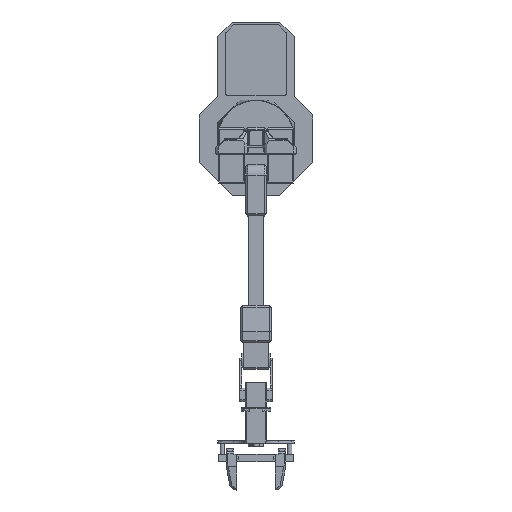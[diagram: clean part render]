
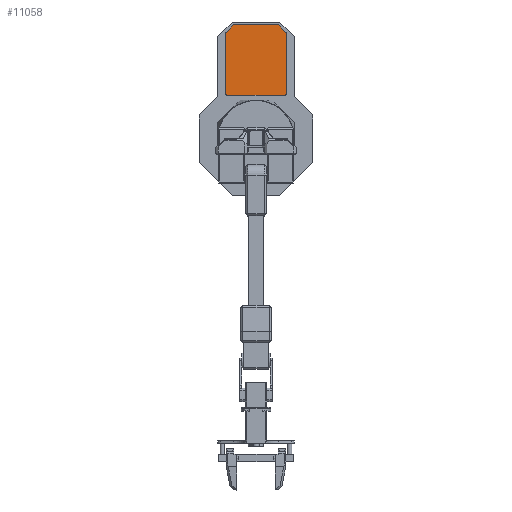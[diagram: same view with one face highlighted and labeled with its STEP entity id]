
A CAD part, top view. The second image highlights one B-rep face of the part: STEP entity #11058.
In plain terms, the highlighted planar face has unit normal (0, 0, 1).
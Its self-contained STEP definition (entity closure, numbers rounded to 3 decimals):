
#266=PLANE('',#11837);
#758=FACE_OUTER_BOUND('',#1432,.T.);
#1432=EDGE_LOOP('',(#7670,#7671,#7672,#7673,#7674,#7675,#7676,#7677,#7678,
#7679,#7680,#7681));
#2136=LINE('',#16088,#3397);
#2140=LINE('',#16100,#3401);
#2144=LINE('',#16112,#3405);
#2148=LINE('',#16124,#3409);
#2152=LINE('',#16136,#3413);
#2155=LINE('',#16145,#3416);
#3397=VECTOR('',#12827,10.);
#3401=VECTOR('',#12839,10.);
#3405=VECTOR('',#12851,10.);
#3409=VECTOR('',#12863,10.);
#3413=VECTOR('',#12875,10.);
#3416=VECTOR('',#12886,10.);
#4655=CIRCLE('',#11815,3.);
#4657=CIRCLE('',#11819,3.);
#4659=CIRCLE('',#11823,3.);
#4661=CIRCLE('',#11827,3.);
#4663=CIRCLE('',#11831,2.5);
#4665=CIRCLE('',#11835,2.5);
#4956=VERTEX_POINT('',#16078);
#4957=VERTEX_POINT('',#16080);
#4959=VERTEX_POINT('',#16086);
#4961=VERTEX_POINT('',#16092);
#4963=VERTEX_POINT('',#16098);
#4965=VERTEX_POINT('',#16104);
#4967=VERTEX_POINT('',#16110);
#4969=VERTEX_POINT('',#16116);
#4971=VERTEX_POINT('',#16122);
#4973=VERTEX_POINT('',#16128);
#4975=VERTEX_POINT('',#16134);
#4977=VERTEX_POINT('',#16140);
#5978=EDGE_CURVE('',#4957,#4956,#4655,.T.);
#5982=EDGE_CURVE('',#4956,#4959,#2136,.T.);
#5985=EDGE_CURVE('',#4959,#4961,#4657,.T.);
#5988=EDGE_CURVE('',#4961,#4963,#2140,.T.);
#5991=EDGE_CURVE('',#4963,#4965,#4659,.T.);
#5994=EDGE_CURVE('',#4965,#4967,#2144,.T.);
#5997=EDGE_CURVE('',#4967,#4969,#4661,.T.);
#6000=EDGE_CURVE('',#4969,#4971,#2148,.T.);
#6003=EDGE_CURVE('',#4971,#4973,#4663,.T.);
#6006=EDGE_CURVE('',#4973,#4975,#2152,.T.);
#6009=EDGE_CURVE('',#4975,#4977,#4665,.T.);
#6011=EDGE_CURVE('',#4977,#4957,#2155,.T.);
#7670=ORIENTED_EDGE('',*,*,#5991,.T.);
#7671=ORIENTED_EDGE('',*,*,#5994,.T.);
#7672=ORIENTED_EDGE('',*,*,#5997,.T.);
#7673=ORIENTED_EDGE('',*,*,#6000,.T.);
#7674=ORIENTED_EDGE('',*,*,#6003,.T.);
#7675=ORIENTED_EDGE('',*,*,#6006,.T.);
#7676=ORIENTED_EDGE('',*,*,#6009,.T.);
#7677=ORIENTED_EDGE('',*,*,#6011,.T.);
#7678=ORIENTED_EDGE('',*,*,#5978,.T.);
#7679=ORIENTED_EDGE('',*,*,#5982,.T.);
#7680=ORIENTED_EDGE('',*,*,#5985,.T.);
#7681=ORIENTED_EDGE('',*,*,#5988,.T.);
#11058=ADVANCED_FACE('',(#758),#266,.T.);
#11815=AXIS2_PLACEMENT_3D('',#16081,#12820,#12821);
#11819=AXIS2_PLACEMENT_3D('',#16094,#12833,#12834);
#11823=AXIS2_PLACEMENT_3D('',#16106,#12845,#12846);
#11827=AXIS2_PLACEMENT_3D('',#16118,#12857,#12858);
#11831=AXIS2_PLACEMENT_3D('',#16130,#12869,#12870);
#11835=AXIS2_PLACEMENT_3D('',#16142,#12881,#12882);
#11837=AXIS2_PLACEMENT_3D('',#16146,#12887,#12888);
#12820=DIRECTION('center_axis',(0.,0.,
1.));
#12821=DIRECTION('ref_axis',(-0.707,0.707,0.));
#12827=DIRECTION('',(0.,-1.,0.));
#12833=DIRECTION('center_axis',(0.,0.,
1.));
#12834=DIRECTION('ref_axis',(-1.,0.,0.));
#12839=DIRECTION('',(1.,0.,0.));
#12845=DIRECTION('center_axis',(0.,0.,
1.));
#12846=DIRECTION('ref_axis',(0.,-1.,0.));
#12851=DIRECTION('',(0.,1.,0.));
#12857=DIRECTION('center_axis',(0.,0.,
1.));
#12858=DIRECTION('ref_axis',(1.,0.,0.));
#12863=DIRECTION('',(-0.707,0.707,0.));
#12869=DIRECTION('center_axis',(0.,0.,
1.));
#12870=DIRECTION('ref_axis',(0.707,0.707,0.));
#12875=DIRECTION('',(-1.,-0.001,0.));
#12881=DIRECTION('center_axis',(0.,0.,
1.));
#12882=DIRECTION('ref_axis',(-0.001,1.,0.));
#12886=DIRECTION('',(-0.707,-0.707,0.));
#12887=DIRECTION('center_axis',(0.,0.,
1.));
#12888=DIRECTION('ref_axis',(-1.,0.,0.));
#16078=CARTESIAN_POINT('',(-41.,140.757,37.));
#16080=CARTESIAN_POINT('',(-40.121,142.879,37.));
#16081=CARTESIAN_POINT('Origin',(-38.,140.757,37.));
#16086=CARTESIAN_POINT('',(-41.,61.,37.));
#16088=CARTESIAN_POINT('',(-41.,140.757,37.));
#16092=CARTESIAN_POINT('',(-38.,58.,37.));
#16094=CARTESIAN_POINT('Origin',(-38.,61.,37.));
#16098=CARTESIAN_POINT('',(38.,58.,37.));
#16100=CARTESIAN_POINT('',(-38.,58.,37.));
#16104=CARTESIAN_POINT('',(41.,61.,37.));
#16106=CARTESIAN_POINT('Origin',(38.,61.,37.));
#16110=CARTESIAN_POINT('',(41.,140.757,37.));
#16112=CARTESIAN_POINT('',(41.,61.,37.));
#16116=CARTESIAN_POINT('',(40.121,142.879,37.));
#16118=CARTESIAN_POINT('Origin',(38.,140.757,37.));
#16122=CARTESIAN_POINT('',(29.673,153.327,37.));
#16124=CARTESIAN_POINT('',(40.121,142.879,37.));
#16128=CARTESIAN_POINT('',(27.904,154.059,37.));
#16130=CARTESIAN_POINT('Origin',(27.906,151.559,37.));
#16134=CARTESIAN_POINT('',(-27.943,154.023,37.));
#16136=CARTESIAN_POINT('',(27.904,154.059,37.));
#16140=CARTESIAN_POINT('',(-29.71,153.29,37.));
#16142=CARTESIAN_POINT('Origin',(-27.942,151.523,37.));
#16145=CARTESIAN_POINT('',(-29.71,153.29,37.));
#16146=CARTESIAN_POINT('Origin',(0.,106.029,
37.));
